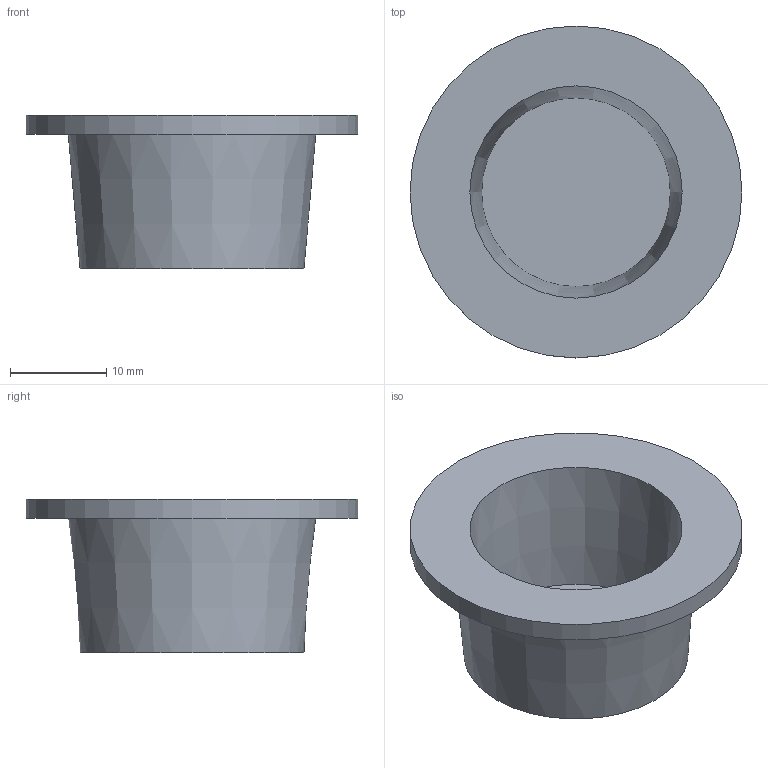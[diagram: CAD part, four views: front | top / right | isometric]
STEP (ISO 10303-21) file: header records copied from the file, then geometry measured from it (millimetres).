
FILE_DESCRIPTION( ('This file contains a STEP AP42 implementation' ,'as created by ZW3D STEP Interface translator.') ,'2;1' );
FILE_NAME( 'OGWm-3_4.stp' ,'26 817.131558', (''), ('ZWCAD Software Co.'), 'Version 1.0', 'ZW3D to STEP translator', '' );
FILE_SCHEMA(('AP242_MANAGED_MODEL_BASED_3D_ENGINEERING_MIM_LF { 1 0 10303 442 1 1 4 }'));
Length unit declared in the file: millimetre
Products named in the file (1): 0
Bounding box: 34.5 x 34.5 x 16 mm (x, y, z)
Volume: 3696.7 mm3; surface area: 3913.5 mm2
Topology: 1 solids, 1 shells, 7 faces, 9 edges, 6 vertices
Faces by surface type: plane 4, cone 2, cylinder 1
Full cylindrical faces by diameter (mm): 34.5 x1
Entity records: 176 total; most frequent: DIRECTION 31, CARTESIAN_POINT 23, ORIENTED_EDGE 18, AXIS2_PLACEMENT_3D 14, EDGE_CURVE 9, EDGE_LOOP 9, FACE_OUTER_BOUND 7, ADVANCED_FACE 7
